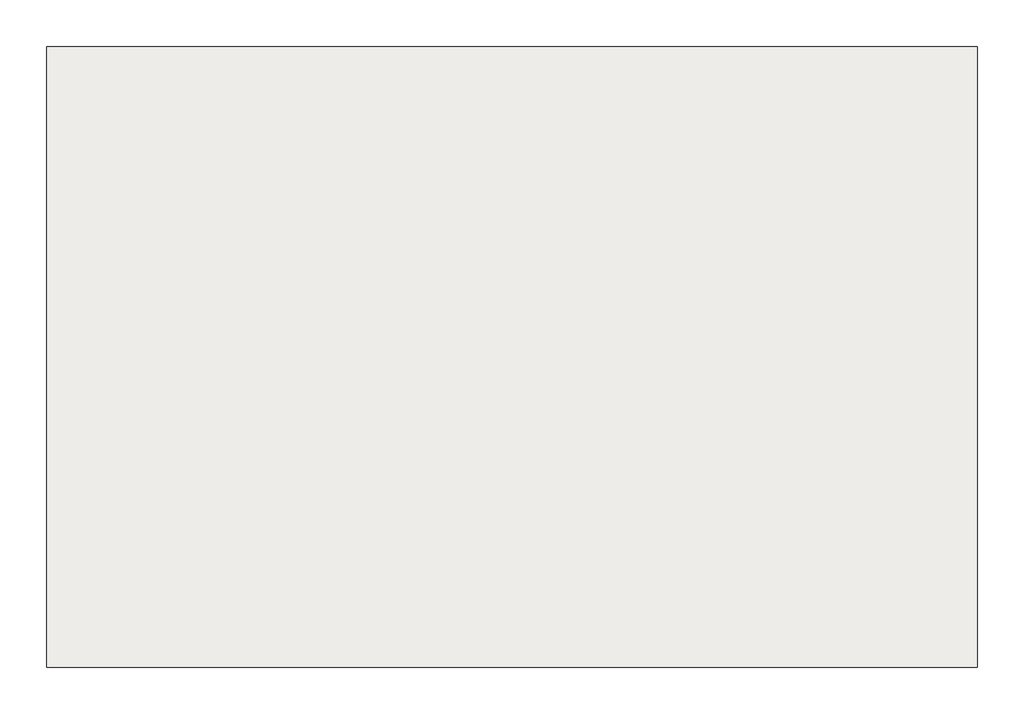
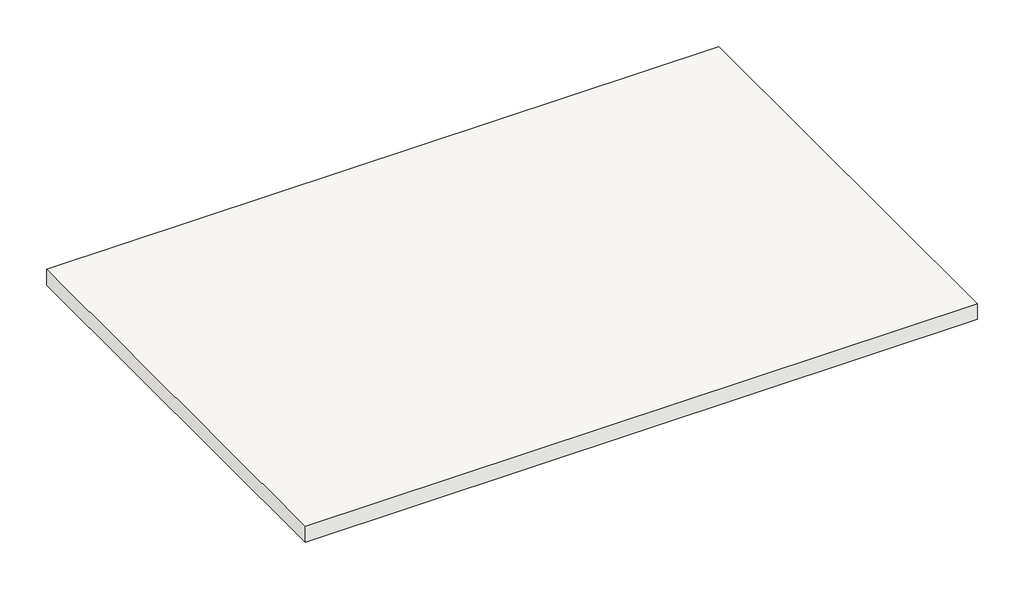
# One storey: 1 slab.
"""IFC4 building model written with IfcOpenShell, lengths in millimetres."""

from ifc_helpers import new_model, si_unit, frame, origin, place, context, project, spatial, polyline, outline, extrude, element, save

model = new_model("IFC4")

# Units and contexts
model_context = context("Model", 3, world=origin())
ifc_project = project(units=[si_unit("LENGTHUNIT", "METRE", prefix="MILLI")], contexts=[model_context])

# Site, building, storey
site = spatial("IfcSite", under=ifc_project)
building = spatial("IfcBuilding", under=site)
storey = spatial("IfcBuildingStorey", under=building, Name="标高 1", Elevation=0.0)

# Slab
placement = place(None, origin())
element("IfcSlab", 1, ObjectType="LB h=150", at=placement, inside=storey, context=model_context, shape_type="SweptSolid", body=[
    extrude(outline(polyline([(-6813.8740212, -3516.5903607), (-6813.8740212, -7516.5903607), (-12813.8740212, -7516.5903607), (-12813.8740212, -3516.5903607), (-6813.8740212, -3516.5903607)])), frame((0.0, 0.0, -150.0), z_axis=(0.0, 0.0, 1.0), x_axis=(1.0, 0.0, 0.0)), (0.0, 0.0, 1.0), 150.0),
])

save(model, "model.ifc")
